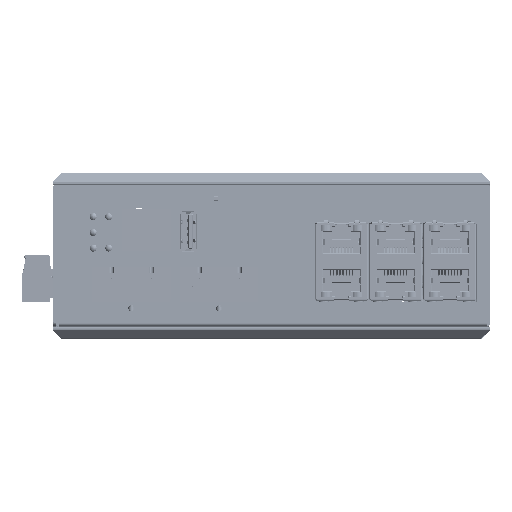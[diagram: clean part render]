
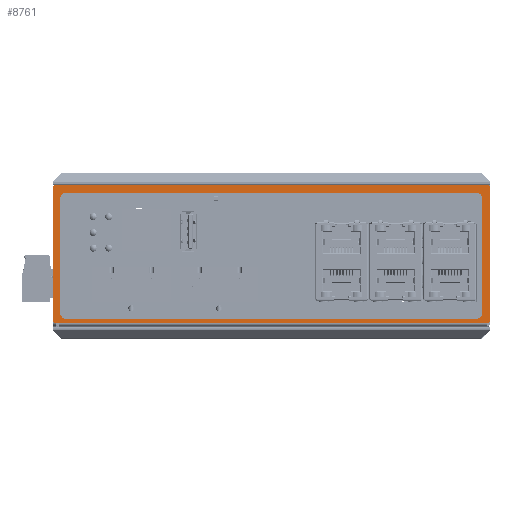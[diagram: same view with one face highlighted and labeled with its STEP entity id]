
A CAD part, top view. The second image highlights one B-rep face of the part: STEP entity #8761.
In plain terms, the highlighted planar face has unit normal (0, 0, 1).
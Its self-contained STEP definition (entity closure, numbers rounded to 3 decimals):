
#313=CARTESIAN_POINT('',(-70.5,1.1,49.));
#314=DIRECTION('',(0.,0.,-1.));
#315=DIRECTION('',(0.,-1.,0.));
#316=AXIS2_PLACEMENT_3D('',#313,#314,#315);
#318=DIRECTION('',(0.,1.,0.));
#319=VECTOR('',#318,42.9);
#320=CARTESIAN_POINT('',(-71.5,1.1,49.));
#321=LINE('',#320,#319);
#322=CARTESIAN_POINT('',(-70.5,44.,49.));
#323=DIRECTION('',(0.,0.,-1.));
#324=DIRECTION('',(-1.,0.,0.));
#325=AXIS2_PLACEMENT_3D('',#322,#323,#324);
#327=DIRECTION('',(1.,0.,0.));
#328=VECTOR('',#327,140.);
#329=CARTESIAN_POINT('',(-70.5,45.,49.));
#330=LINE('',#329,#328);
#331=CARTESIAN_POINT('',(69.5,44.,49.));
#332=DIRECTION('',(0.,0.,-1.));
#333=DIRECTION('',(0.,1.,0.));
#334=AXIS2_PLACEMENT_3D('',#331,#332,#333);
#336=DIRECTION('',(0.,-1.,0.));
#337=VECTOR('',#336,42.9);
#338=CARTESIAN_POINT('',(70.5,44.,49.));
#339=LINE('',#338,#337);
#340=CARTESIAN_POINT('',(69.5,1.1,49.));
#341=DIRECTION('',(0.,0.,-1.));
#342=DIRECTION('',(1.,0.,0.));
#343=AXIS2_PLACEMENT_3D('',#340,#341,#342);
#345=DIRECTION('',(0.,-1.,0.));
#346=VECTOR('',#345,37.);
#347=CARTESIAN_POINT('',(-69.,40.5,49.));
#348=LINE('',#347,#346);
#349=CARTESIAN_POINT('',(-67.,3.5,49.));
#350=DIRECTION('',(0.,0.,1.));
#351=DIRECTION('',(-1.,0.,0.));
#352=AXIS2_PLACEMENT_3D('',#349,#350,#351);
#354=DIRECTION('',(1.,0.,0.));
#355=VECTOR('',#354,133.);
#356=CARTESIAN_POINT('',(-67.,1.5,49.));
#357=LINE('',#356,#355);
#358=CARTESIAN_POINT('',(66.,3.5,49.));
#359=DIRECTION('',(0.,0.,1.));
#360=DIRECTION('',(0.,-1.,0.));
#361=AXIS2_PLACEMENT_3D('',#358,#359,#360);
#363=DIRECTION('',(0.,1.,0.));
#364=VECTOR('',#363,37.);
#365=CARTESIAN_POINT('',(68.,3.5,49.));
#366=LINE('',#365,#364);
#367=CARTESIAN_POINT('',(66.,40.5,49.));
#368=DIRECTION('',(0.,0.,1.));
#369=DIRECTION('',(1.,0.,0.));
#370=AXIS2_PLACEMENT_3D('',#367,#368,#369);
#372=DIRECTION('',(-1.,0.,0.));
#373=VECTOR('',#372,133.);
#374=CARTESIAN_POINT('',(66.,42.5,49.));
#375=LINE('',#374,#373);
#376=CARTESIAN_POINT('',(-67.,40.5,49.));
#377=DIRECTION('',(0.,0.,1.));
#378=DIRECTION('',(0.,1.,0.));
#379=AXIS2_PLACEMENT_3D('',#376,#377,#378);
#385=DIRECTION('',(1.,0.,0.));
#386=VECTOR('',#385,0.1);
#387=CARTESIAN_POINT('',(69.4,0.1,49.));
#388=LINE('',#387,#386);
#421=DIRECTION('',(1.,0.,0.));
#422=VECTOR('',#421,138.8);
#423=CARTESIAN_POINT('',(-69.4,0.1,49.));
#424=LINE('',#423,#422);
#6051=DIRECTION('',(1.,0.,0.));
#6052=VECTOR('',#6051,1.1);
#6053=CARTESIAN_POINT('',(-70.5,0.1,49.));
#6054=LINE('',#6053,#6052);
#6749=CARTESIAN_POINT('',(70.5,44.,49.));
#6750=CARTESIAN_POINT('',(70.5,1.1,49.));
#6751=VERTEX_POINT('',#6749);
#6752=VERTEX_POINT('',#6750);
#6753=CARTESIAN_POINT('',(69.4,0.1,49.));
#6754=CARTESIAN_POINT('',(69.5,0.1,49.));
#6755=VERTEX_POINT('',#6753);
#6756=VERTEX_POINT('',#6754);
#6757=CARTESIAN_POINT('',(-69.4,0.1,49.));
#6758=VERTEX_POINT('',#6757);
#6759=CARTESIAN_POINT('',(-70.5,0.1,49.));
#6760=VERTEX_POINT('',#6759);
#6761=CARTESIAN_POINT('',(-71.5,1.1,49.));
#6762=VERTEX_POINT('',#6761);
#6763=CARTESIAN_POINT('',(-71.5,44.,49.));
#6764=VERTEX_POINT('',#6763);
#6765=CARTESIAN_POINT('',(-70.5,45.,49.));
#6766=VERTEX_POINT('',#6765);
#6767=CARTESIAN_POINT('',(69.5,45.,49.));
#6768=VERTEX_POINT('',#6767);
#6769=CARTESIAN_POINT('',(-69.,40.5,49.));
#6770=CARTESIAN_POINT('',(-69.,3.5,49.));
#6771=VERTEX_POINT('',#6769);
#6772=VERTEX_POINT('',#6770);
#6773=CARTESIAN_POINT('',(-67.,1.5,49.));
#6774=VERTEX_POINT('',#6773);
#6775=CARTESIAN_POINT('',(66.,1.5,49.));
#6776=VERTEX_POINT('',#6775);
#6777=CARTESIAN_POINT('',(68.,3.5,49.));
#6778=VERTEX_POINT('',#6777);
#6779=CARTESIAN_POINT('',(68.,40.5,49.));
#6780=VERTEX_POINT('',#6779);
#6781=CARTESIAN_POINT('',(66.,42.5,49.));
#6782=VERTEX_POINT('',#6781);
#6783=CARTESIAN_POINT('',(-67.,42.5,49.));
#6784=VERTEX_POINT('',#6783);
#8717=CARTESIAN_POINT('',(0.,0.,49.));
#8718=DIRECTION('',(0.,0.,1.));
#8719=DIRECTION('',(0.,-1.,0.));
#8720=AXIS2_PLACEMENT_3D('',#8717,#8718,#8719);
#8721=PLANE('',#8720);
#8723=ORIENTED_EDGE('',*,*,#8722,.F.);
#8725=ORIENTED_EDGE('',*,*,#8724,.F.);
#8727=ORIENTED_EDGE('',*,*,#8726,.F.);
#8729=ORIENTED_EDGE('',*,*,#8728,.T.);
#8731=ORIENTED_EDGE('',*,*,#8730,.T.);
#8733=ORIENTED_EDGE('',*,*,#8732,.T.);
#8735=ORIENTED_EDGE('',*,*,#8734,.T.);
#8737=ORIENTED_EDGE('',*,*,#8736,.T.);
#8738=ORIENTED_EDGE('',*,*,#8707,.T.);
#8740=ORIENTED_EDGE('',*,*,#8739,.T.);
#8741=EDGE_LOOP('',(#8723,#8725,#8727,#8729,#8731,#8733,#8735,#8737,#8738,
#8740));
#8742=FACE_OUTER_BOUND('',#8741,.F.);
#8744=ORIENTED_EDGE('',*,*,#8743,.T.);
#8746=ORIENTED_EDGE('',*,*,#8745,.T.);
#8748=ORIENTED_EDGE('',*,*,#8747,.T.);
#8750=ORIENTED_EDGE('',*,*,#8749,.T.);
#8752=ORIENTED_EDGE('',*,*,#8751,.T.);
#8754=ORIENTED_EDGE('',*,*,#8753,.T.);
#8756=ORIENTED_EDGE('',*,*,#8755,.T.);
#8758=ORIENTED_EDGE('',*,*,#8757,.T.);
#8759=EDGE_LOOP('',(#8744,#8746,#8748,#8750,#8752,#8754,#8756,#8758));
#8760=FACE_BOUND('',#8759,.F.);
#317=CIRCLE('',#316,1.);
#326=CIRCLE('',#325,1.);
#335=CIRCLE('',#334,1.);
#344=CIRCLE('',#343,1.);
#353=CIRCLE('',#352,2.);
#362=CIRCLE('',#361,2.);
#371=CIRCLE('',#370,2.);
#380=CIRCLE('',#379,2.);
#8707=EDGE_CURVE('',#6751,#6752,#339,.T.);
#8722=EDGE_CURVE('',#6755,#6756,#388,.T.);
#8724=EDGE_CURVE('',#6758,#6755,#424,.T.);
#8726=EDGE_CURVE('',#6760,#6758,#6054,.T.);
#8728=EDGE_CURVE('',#6760,#6762,#317,.T.);
#8730=EDGE_CURVE('',#6762,#6764,#321,.T.);
#8732=EDGE_CURVE('',#6764,#6766,#326,.T.);
#8734=EDGE_CURVE('',#6766,#6768,#330,.T.);
#8736=EDGE_CURVE('',#6768,#6751,#335,.T.);
#8739=EDGE_CURVE('',#6752,#6756,#344,.T.);
#8743=EDGE_CURVE('',#6771,#6772,#348,.T.);
#8745=EDGE_CURVE('',#6772,#6774,#353,.T.);
#8747=EDGE_CURVE('',#6774,#6776,#357,.T.);
#8749=EDGE_CURVE('',#6776,#6778,#362,.T.);
#8751=EDGE_CURVE('',#6778,#6780,#366,.T.);
#8753=EDGE_CURVE('',#6780,#6782,#371,.T.);
#8755=EDGE_CURVE('',#6782,#6784,#375,.T.);
#8757=EDGE_CURVE('',#6784,#6771,#380,.T.);
#8761=ADVANCED_FACE('',(#8742,#8760),#8721,.T.);
